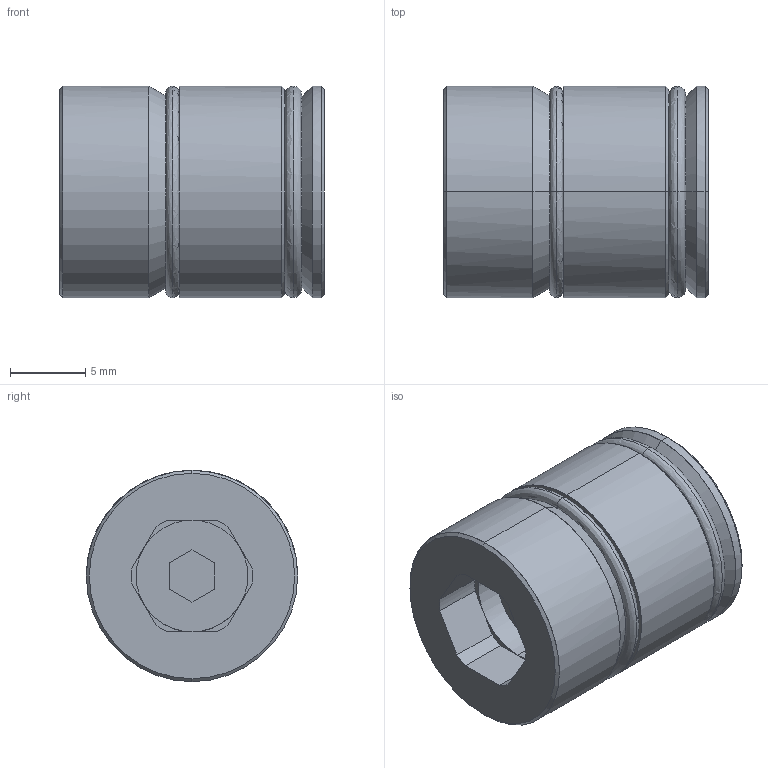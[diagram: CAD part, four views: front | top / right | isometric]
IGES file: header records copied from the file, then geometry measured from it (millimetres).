
Start section: START RECORD GO HERE.
Global section: file name: TRI-14.igs; native system: DASSAULT SYSTEMES CATIA V5 R20 - www.3ds.com; preprocessor: CATIA Version 5 Release 20 ; author: Utente; organization: NB04-ASUS; date: 20210222.201132; units: millimetre
Bounding box: 17.5 x 14 x 14 mm (x, y, z)
Surface area: 1360.4 mm2 (no closed solid volume)
Topology: 0 solids, 0 shells, 56 faces, 304 edges, 304 vertices
Faces by surface type: revolution 32, plane 24
